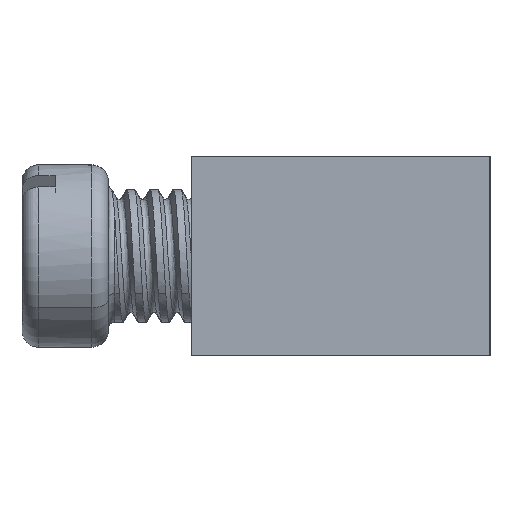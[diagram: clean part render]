
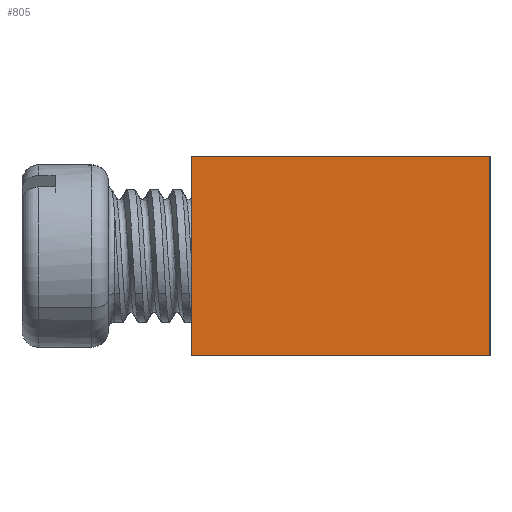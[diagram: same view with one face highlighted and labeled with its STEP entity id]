
A CAD part, left-side view. The second image highlights one B-rep face of the part: STEP entity #805.
In plain terms, the highlighted planar face has unit normal (-1, 0, 0).
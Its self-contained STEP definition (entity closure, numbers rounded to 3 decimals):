
#131 = CARTESIAN_POINT ( 'NONE',  ( 0., 0., -6. ) ) ;
#192 = EDGE_LOOP ( 'NONE', ( #5424, #5275, #2617, #4932 ) ) ;
#256 = CARTESIAN_POINT ( 'NONE',  ( 0., 0., 0. ) ) ;
#780 = CARTESIAN_POINT ( 'NONE',  ( 0., 9., -6. ) ) ;
#805 = ADVANCED_FACE ( 'NONE', ( #5612 ), #5883, .T. ) ;
#965 = VECTOR ( 'NONE', #5618, 1000. ) ;
#1642 = EDGE_CURVE ( 'NONE', #4257, #4797, #6091, .T. ) ;
#1791 = EDGE_CURVE ( 'NONE', #4797, #4496, #5543, .T. ) ;
#1889 = EDGE_CURVE ( 'NONE', #4257, #4718, #3701, .T. ) ;
#2037 = AXIS2_PLACEMENT_3D ( 'NONE', #2494, #3059, #7025 ) ;
#2182 = VECTOR ( 'NONE', #4625, 1000. ) ;
#2494 = CARTESIAN_POINT ( 'NONE',  ( 0., 0., -6. ) ) ;
#2617 = ORIENTED_EDGE ( 'NONE', *, *, #1889, .T. ) ;
#3059 = DIRECTION ( 'NONE',  ( -1., 0., 0. ) ) ;
#3187 = CARTESIAN_POINT ( 'NONE',  ( 0., 0., -6. ) ) ;
#3634 = DIRECTION ( 'NONE',  ( 0., -1., 0. ) ) ;
#3701 = LINE ( 'NONE', #131, #2182 ) ;
#4123 = CARTESIAN_POINT ( 'NONE',  ( 0., 9., -6. ) ) ;
#4142 = LINE ( 'NONE', #5042, #965 ) ;
#4257 = VERTEX_POINT ( 'NONE', #780 ) ;
#4404 = VECTOR ( 'NONE', #5248, 1000. ) ;
#4496 = VERTEX_POINT ( 'NONE', #5254 ) ;
#4625 = DIRECTION ( 'NONE',  ( 0., -1., 0. ) ) ;
#4718 = VERTEX_POINT ( 'NONE', #3187 ) ;
#4797 = VERTEX_POINT ( 'NONE', #5505 ) ;
#4932 = ORIENTED_EDGE ( 'NONE', *, *, #5000, .T. ) ;
#5000 = EDGE_CURVE ( 'NONE', #4718, #4496, #4142, .T. ) ;
#5042 = CARTESIAN_POINT ( 'NONE',  ( 0., 0., -6. ) ) ;
#5248 = DIRECTION ( 'NONE',  ( 0., 0., 1. ) ) ;
#5254 = CARTESIAN_POINT ( 'NONE',  ( 0., 0., 0. ) ) ;
#5275 = ORIENTED_EDGE ( 'NONE', *, *, #1642, .F. ) ;
#5424 = ORIENTED_EDGE ( 'NONE', *, *, #1791, .F. ) ;
#5505 = CARTESIAN_POINT ( 'NONE',  ( 0., 9., 0. ) ) ;
#5543 = LINE ( 'NONE', #256, #7075 ) ;
#5612 = FACE_OUTER_BOUND ( 'NONE', #192, .T. ) ;
#5618 = DIRECTION ( 'NONE',  ( 0., 0., 1. ) ) ;
#5883 = PLANE ( 'NONE',  #2037 ) ;
#6091 = LINE ( 'NONE', #4123, #4404 ) ;
#7025 = DIRECTION ( 'NONE',  ( 0., 0., 1. ) ) ;
#7075 = VECTOR ( 'NONE', #3634, 1000. ) ;
